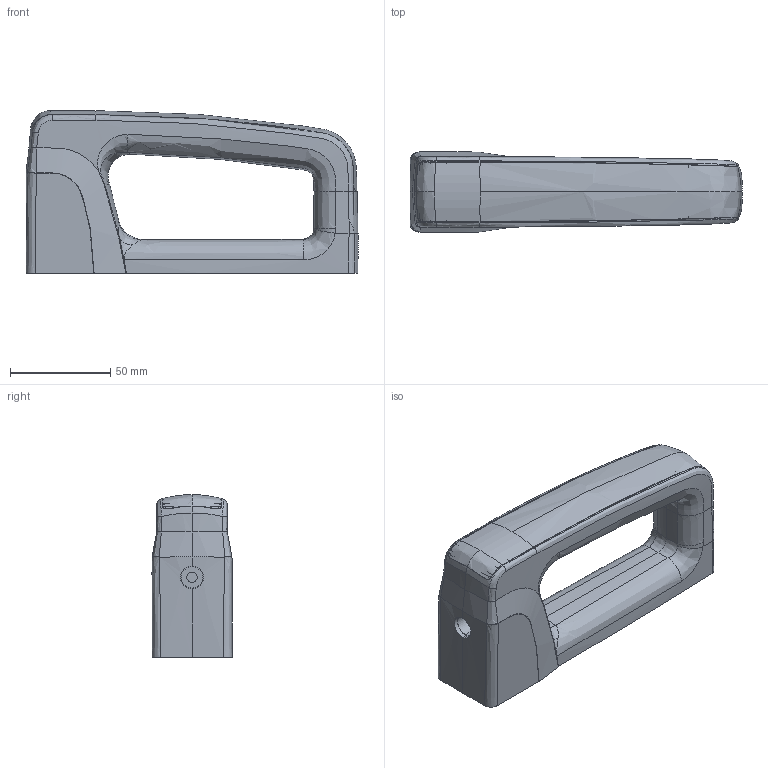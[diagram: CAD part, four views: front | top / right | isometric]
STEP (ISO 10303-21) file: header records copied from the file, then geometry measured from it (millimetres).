
FILE_DESCRIPTION (( 'STEP AP203' ), '1' );
FILE_NAME ('ZF_STEP_AN_Txx100x0.STEP', '2024-11-15T09:11:04', ( '' ), ( '' ), 'SwSTEP 2.0', 'SolidWorks 2023', '' );
FILE_SCHEMA (( 'CONFIG_CONTROL_DESIGN' ));
Length unit declared in the file: millimetre
Products named in the file (7): AN T-Porta tag_3dweb_piastrina; AN T-Tag 9719_3dweb; AN T-Maniglia senza foro_3dweb; ZF_STEP_AN_Txx100x0; AN T-Tag 9719_con staffa; AN T-Maniglia senza foro_3dweb_lente senza foro
Assembly tree (6 placements, depth 3):
  ZF_STEP_AN_Txx100x0
    AN T-Maniglia senza foro_3dweb
      AN T-Maniglia senza foro_3dweb_lente senza foro
    AN T-Porta tag_3dweb_piastrina
      AN T-Porta tag_3dweb_piastrina
    AN T-Tag 9719_3dweb
      AN T-Tag 9719_con staffa
Bounding box: 166 x 40 x 81.3 mm (x, y, z)
Volume: 236985.3 mm3; surface area: 84608.5 mm2
Topology: 5 solids, 7 shells, 755 faces, 1983 edges, 1262 vertices
Faces by surface type: bspline 264, plane 238, cylinder 196, cone 35, torus 14, sphere 8
Entity records: 47819 total; most frequent: CARTESIAN_POINT 30686, ORIENTED_EDGE 3962, DIRECTION 2610, EDGE_CURVE 1981, VERTEX_POINT 1262, AXIS2_PLACEMENT_3D 938, EDGE_LOOP 799, B_SPLINE_CURVE_WITH_KNOTS 791
